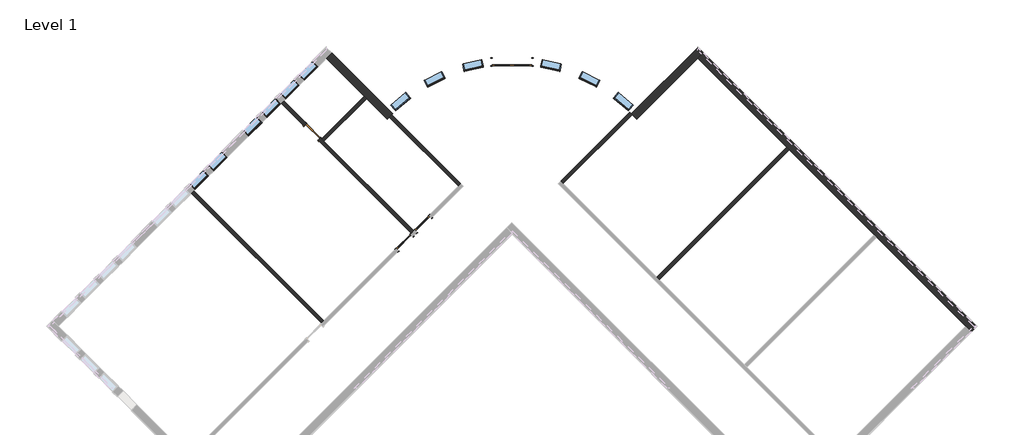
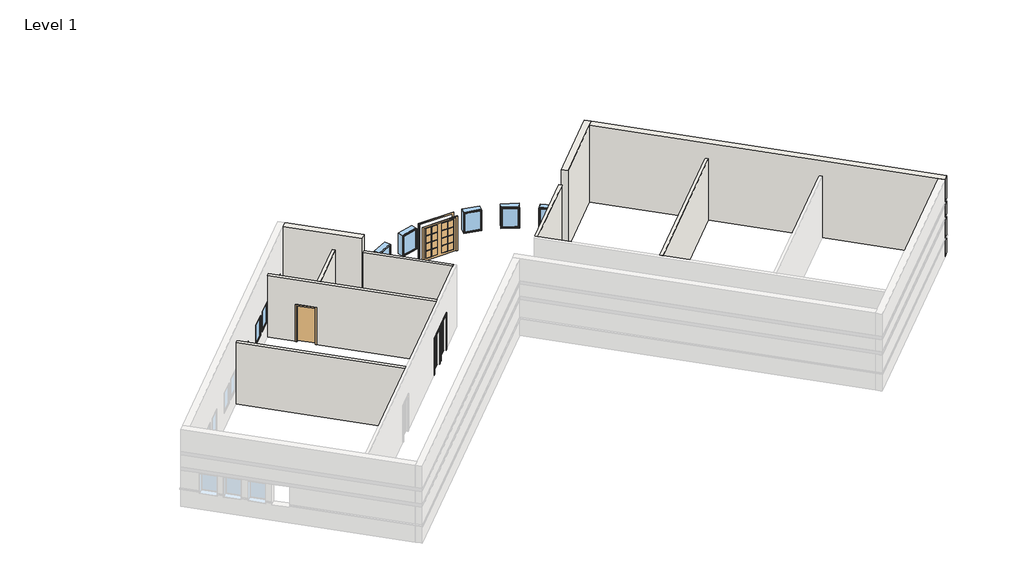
# One storey, part 2 of 3: 12 windows, 9 walls, 4 doors.
"""IFC4 building model written with IfcOpenShell, lengths in millimetres."""

from ifc_helpers import new_model, si_unit, point, frame, frame_2d, origin, origin_with_axes, place, context, project, spatial, polyline, circle_curve, trimmed, segment, composite_curve, outline, extrude, faceted_brep, transform, mapped, element, save
from ifc_brep_helpers import plane_surface, cylinder_surface, revolved_surface, advanced_brep
from components import door_74f1c961, door_f9494b7c, door_b81abb0e, door_5f5b55da, window_15c49d37, window_0e2fc6ce

model = new_model("IFC4")

# Units and contexts
model_context = context("Model", 3, world=origin())
ifc_project = project(units=[si_unit("LENGTHUNIT", "METRE", prefix="MILLI")], contexts=[model_context])

# Site, building, storey
site = spatial("IfcSite", under=ifc_project)
building = spatial("IfcBuilding", under=site)
storey = spatial("IfcBuildingStorey", under=building, Name="Level 1", Elevation=0.0)

# Doors
placement = place(None, origin())
door_shape = door_74f1c961(model_context)
element("IfcDoor", 1, ObjectType="Double-Glass 2 : 72\" x 78\"", at=placement, inside=storey, context=model_context, shape_type="MappedRepresentation", body=[
    mapped(door_shape, transform((-3443.7425556, 10275.0854226, 0.0), x_axis=(-0.9999999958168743, -9.146721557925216e-05, 0.0), y_axis=(9.146721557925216e-05, -0.9999999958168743, 0.0), z_axis=(0.0, 0.0, 1.0))),
])
door_2_shape = door_f9494b7c(model_context)
element("IfcDoor", 2, ObjectType="Single-Flush : 36\" x 84\"", at=placement, inside=storey, context=model_context, shape_type="MappedRepresentation", body=[
    mapped(door_2_shape, transform((-12710.6349126, 7029.9464017, 0.0), x_axis=(0.7071067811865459, -0.7071067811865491, 0.0), y_axis=(0.7071067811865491, 0.7071067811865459, 0.0), z_axis=(0.0, 0.0, 1.0))),
])
door_3_shape = door_b81abb0e(model_context)
element("IfcDoor", 3, ObjectType="Single-Glass 1 : 36\" x 84\"", at=placement, inside=storey, context=model_context, shape_type="MappedRepresentation", body=[
    mapped(door_3_shape, transform((-8433.7879349, 1890.9948364, 0.0), x_axis=(0.707106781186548, 0.707106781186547, 0.0), y_axis=(-0.707106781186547, 0.707106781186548, 0.0), z_axis=(0.0, 0.0, 1.0))),
])
door_4_shape = door_5f5b55da(model_context)
element("IfcDoor", 4, ObjectType="Single-Glass 1 : 36\" x 84\"", at=placement, inside=storey, context=model_context, shape_type="MappedRepresentation", body=[
    mapped(door_4_shape, transform((-7571.6833473, 2753.0994241, 0.0), x_axis=(-0.707106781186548, -0.707106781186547, 0.0), y_axis=(0.707106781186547, -0.707106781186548, 0.0), z_axis=(0.0, 0.0, 1.0))),
])

# Walls
element("IfcWall", 5, ObjectType="Exterior - Split Face and CMU on Mtl. Stud", at=placement, inside=storey, context=model_context, shape_type="AdvancedBrep", body=[
    advanced_brep(
    [(2346.973313, 7613.6268242, 0.0), (5178.0352806, 10444.6887918, 0.0), (5427.237388, 10693.8908991, 0.0), (5427.237388, 10693.8908991, 1016.0), (5362.1305311, 10628.7840422, 1016.0), (5362.1305311, 10628.7840422, 1085.85), (5427.237388, 10693.8908991, 1085.85), (5427.237388, 10693.8908991, 2133.6), (5362.1305311, 10628.7840422, 2133.6), (5362.1305311, 10628.7840422, 2336.8), (5427.237388, 10693.8908991, 2336.8), (5427.237388, 10693.8908991, 3048.0), (5362.1305311, 10628.7840422, 3048.0), (5362.1305311, 10628.7840422, 3251.2), (5427.237388, 10693.8908991, 3251.2), (5427.237388, 10693.8908991, 4572.0), (5178.0352806, 10444.6887918, 4572.0), (2346.973313, 7613.6268242, 4572.0), (2102.2428123, 7867.3005381, 4572.0), (2351.4472641, 8116.50499, 4572.0), (5178.0352806, 10943.0930065, 4572.0), (5178.0352806, 10943.0930065, 3251.2), (2351.4472641, 8116.50499, 3251.2), (2286.3398143, 8051.3975402, 3251.2), (2286.3398143, 8051.3975402, 3048.0), (2351.4472641, 8116.50499, 3048.0), (5178.0352806, 10943.0930065, 3048.0), (5178.0352806, 10943.0930065, 2336.8), (2351.4472641, 8116.50499, 2336.8), (2286.3398143, 8051.3975402, 2336.8), (2286.3398143, 8051.3975402, 2133.6), (2351.4472641, 8116.50499, 2133.6), (5178.0352806, 10943.0930065, 2133.6), (5178.0352806, 10943.0930065, 1085.85), (2351.4472641, 8116.50499, 1085.85), (2286.3398143, 8051.3975402, 1085.85), (2286.3398143, 8051.3975402, 1016.0), (2351.4472641, 8116.50499, 1016.0), (5178.0352806, 10943.0930065, 1016.0), (5178.0352806, 10943.0930065, 0.0), (2351.4472641, 8116.50499, 0.0), (2102.2428123, 7867.3005381, 0.0), (2167.2578198, 7802.1018319, 0.0), (5243.1421375, 10877.9861496, 0.0), (2351.3577606, 7986.2017727, 1016.0), (2351.3577606, 7986.2017727, 1085.85), (5178.0352806, 10812.8792927, 1085.85), (5178.0352806, 10812.8792927, 1016.0), (2351.3577606, 7986.2017727, 2133.6), (2351.3577606, 7986.2017727, 2336.8), (5178.0352806, 10812.8792927, 2336.8), (5178.0352806, 10812.8792927, 2133.6), (5178.0352806, 10812.8792927, 3048.0), (2351.3577606, 7986.2017727, 3048.0), (2351.3577606, 7986.2017727, 3251.2), (5178.0352806, 10812.8792927, 3251.2), (2132.6031084, 7837.04408, 0.0)],
    [
        (0, 1),
        (1, 2),
        (2, 3),
        (3, 4),
        (4, 5),
        (5, 6),
        (6, 7),
        (7, 8),
        (8, 9),
        (9, 10),
        (10, 11),
        (11, 12),
        (12, 13),
        (13, 14),
        (14, 15),
        (15, 16),
        (16, 17),
        (17, 0),
        (18, 19),
        (19, 20),
        (20, 21),
        (21, 22),
        (22, 23),
        (23, 24),
        (24, 25),
        (25, 26),
        (26, 27),
        (27, 28),
        (28, 29),
        (29, 30),
        (30, 31),
        (31, 32),
        (32, 33),
        (33, 34),
        (34, 35),
        (35, 36),
        (36, 37),
        (37, 38),
        (38, 39),
        (39, 40),
        (40, 41),
        (41, 18),
        (15, 20),
        (18, 17, circle_curve(frame((-3443.0105956, 2272.6557216, 4572.0), z_axis=(0.0, 0.0, -1.0), x_axis=(1.0, 0.0, 0.0)), 7877.175)),
        (0, 42, circle_curve(frame((-3443.0105956, 2272.6557216, 0.0), z_axis=(0.0, 0.0, 1.0), x_axis=(1.0, 0.0, 0.0)), 7877.175)),
        (42, 43),
        (43, 2),
        (44, 45),
        (45, 46),
        (46, 47),
        (47, 44),
        (48, 49),
        (49, 50),
        (50, 51),
        (51, 48),
        (52, 53),
        (53, 54),
        (54, 55),
        (55, 52),
        (14, 21),
        (43, 39),
        (38, 3),
        (6, 33),
        (32, 7),
        (10, 27),
        (26, 11),
        (46, 5),
        (4, 47),
        (50, 9),
        (8, 51),
        (55, 13),
        (12, 52),
        (42, 56, circle_curve(frame((-3443.0105956, 2272.6557216, 0.0), z_axis=(0.0, 0.0, 1.0), x_axis=(1.0, 0.0, 0.0)), 7877.175)),
        (56, 41, circle_curve(frame((-3443.0105956, 2272.6557216, 0.0), z_axis=(0.0, 0.0, 1.0), x_axis=(1.0, 0.0, 0.0)), 7877.175)),
        (45, 35, circle_curve(frame((-3443.0105956, 2272.6557216, 1085.85), z_axis=(0.0, 0.0, 1.0), x_axis=(-0.7040995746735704, 0.7101012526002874, 0.0)), 8137.525)),
        (36, 44, circle_curve(frame((-3443.0105956, 2272.6557216, 1016.0), z_axis=(0.0, 0.0, -1.0), x_axis=(-0.7040995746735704, 0.7101012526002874, 0.0)), 8137.525)),
        (30, 48, circle_curve(frame((-3443.0105956, 2272.6557216, 2133.6), z_axis=(0.0, 0.0, -1.0), x_axis=(-0.7040995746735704, 0.7101012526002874, 0.0)), 8137.525)),
        (29, 49, circle_curve(frame((-3443.0105956, 2272.6557216, 2336.8), z_axis=(0.0, 0.0, -1.0), x_axis=(-0.7040995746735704, 0.7101012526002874, 0.0)), 8137.525)),
        (24, 53, circle_curve(frame((-3443.0105956, 2272.6557216, 3048.0), z_axis=(0.0, 0.0, -1.0), x_axis=(-0.7040995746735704, 0.7101012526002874, 0.0)), 8137.525)),
        (23, 54, circle_curve(frame((-3443.0105956, 2272.6557216, 3251.2), z_axis=(0.0, 0.0, -1.0), x_axis=(-0.7040995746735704, 0.7101012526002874, 0.0)), 8137.525)),
    ],
    [
        plane_surface(frame((2409.8713313, 7676.5248424, 0.0), z_axis=(0.7071067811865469, -0.7071067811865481, 0.0), x_axis=(0.7071067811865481, 0.7071067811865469, 0.0))),
        plane_surface(frame((2160.6692239, 7925.7269498, 0.0), z_axis=(-0.7071067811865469, 0.7071067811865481, 0.0), x_axis=(-0.7071067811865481, -0.7071067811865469, 0.0))),
        plane_surface(frame((5302.6363343, 10569.2898454, 4572.0), z_axis=(0.0, 0.0, 1.0), x_axis=(-0.707106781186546, 0.7071067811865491, 0.0))),
        plane_surface(frame((2475.22429, 7741.8778012, 0.0), z_axis=(0.0, 0.0, -1.0), x_axis=(-0.7071067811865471, 0.7071067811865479, 0.0))),
        plane_surface(frame((2351.3577606, 7986.2017727, 1016.0), z_axis=(-0.7071067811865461, 0.7071067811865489, 0.0), x_axis=(0.7071067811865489, 0.7071067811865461, 0.0))),
        plane_surface(frame((2351.3577606, 7986.2017727, 2133.6), z_axis=(-0.7071067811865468, 0.7071067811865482, 0.0), x_axis=(0.7071067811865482, 0.7071067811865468, 0.0))),
        plane_surface(frame((2351.3577606, 7986.2017727, 3048.0), z_axis=(-0.7071067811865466, 0.7071067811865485, 0.0), x_axis=(0.7071067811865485, 0.7071067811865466, 0.0))),
        plane_surface(frame((5178.0352806, 10943.0930065, 0.0), z_axis=(0.7071067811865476, 0.7071067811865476, 0.0), x_axis=(-0.7071067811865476, 0.7071067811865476, 0.0))),
        plane_surface(frame((5178.0352806, 10812.8792927, 1016.0), z_axis=(0.7071067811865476, 0.7071067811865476, 0.0), x_axis=(0.7071067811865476, -0.7071067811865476, 0.0))),
        plane_surface(frame((5178.0352806, 10812.8792927, 2133.6), z_axis=(0.7071067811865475, 0.7071067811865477, 0.0), x_axis=(0.7071067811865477, -0.7071067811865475, 0.0))),
        plane_surface(frame((5178.0352806, 10812.8792927, 3048.0), z_axis=(0.7071067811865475, 0.7071067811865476, 0.0), x_axis=(0.7071067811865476, -0.7071067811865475, 0.0))),
        plane_surface(frame((0.0, 0.0, 0.0), z_axis=(0.0, 0.0, -1.0), x_axis=(1.0, 0.0, 0.0))),
        plane_surface(frame((-3443.0105956, 2272.6557216, 1085.85), z_axis=(0.0, 0.0, -1.0), x_axis=(-0.7040995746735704, 0.7101012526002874, 0.0))),
        plane_surface(frame((-3443.0105956, 2272.6557216, 1016.0), z_axis=(0.0, 0.0, 1.0), x_axis=(-0.7040995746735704, 0.7101012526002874, 0.0))),
        cylinder_surface(frame((-3443.0105956, 2272.6557216, 1016.0), z_axis=(0.0, 0.0, -1.0), x_axis=(-0.7040995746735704, 0.7101012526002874, 0.0)), 8137.525),
        plane_surface(frame((-3443.0105956, 2272.6557216, 2133.6), z_axis=(0.0, 0.0, 1.0), x_axis=(-0.7040995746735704, 0.7101012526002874, 0.0))),
        cylinder_surface(frame((-3443.0105956, 2272.6557216, 2133.6), z_axis=(0.0, 0.0, -1.0), x_axis=(-0.7040995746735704, 0.7101012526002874, 0.0)), 8137.525),
        plane_surface(frame((-3443.0105956, 2272.6557216, 2336.8), z_axis=(0.0, 0.0, -1.0), x_axis=(-0.7040995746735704, 0.7101012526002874, 0.0))),
        plane_surface(frame((-3443.0105956, 2272.6557216, 3048.0), z_axis=(0.0, 0.0, 1.0), x_axis=(-0.7040995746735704, 0.7101012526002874, 0.0))),
        cylinder_surface(frame((-3443.0105956, 2272.6557216, 3048.0), z_axis=(0.0, 0.0, -1.0), x_axis=(-0.7040995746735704, 0.7101012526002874, 0.0)), 8137.525),
        plane_surface(frame((-3443.0105956, 2272.6557216, 3251.2), z_axis=(0.0, 0.0, -1.0), x_axis=(-0.7040995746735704, 0.7101012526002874, 0.0))),
        revolved_surface(polyline([(4434.1644044, 2272.6557216, 0.0), (4434.1644044, 2272.6557216, 4572.0)]), (-3443.0105956, 2272.6557216, 0.0), (0.0, 0.0, -1.0)),
    ],
    [
        (0, [[1, 2, 3, 4, 5, 6, 7, 8, 9, 10, 11, 12, 13, 14, 15, 16, 17, 18]]),
        (1, [[19, 20, 21, 22, 23, 24, 25, 26, 27, 28, 29, 30, 31, 32, 33, 34, 35, 36, 37, 38, 39, 40, 41, 42]]),
        (2, [[-17, -16, 43, -20, -19, 44]]),
        (3, [[-2, -1, 45, 46, 47]]),
        (4, [[48, 49, 50, 51]]),
        (5, [[52, 53, 54, 55]]),
        (6, [[56, 57, 58, 59]]),
        (7, [[-43, -15, 60, -21]]),
        (7, [[-47, 61, -39, 62, -3]]),
        (7, [[-7, 63, -33, 64]]),
        (7, [[65, -27, 66, -11]]),
        (8, [[-50, 67, -5, 68]]),
        (9, [[-54, 69, -9, 70]]),
        (10, [[-59, 71, -13, 72]]),
        (11, [[-41, -40, -61, -46, 73, 74]]),
        (12, [[-49, 75, -35, -34, -63, -6, -67]]),
        (13, [[-51, -68, -4, -62, -38, -37, 76]]),
        (14, [[-48, -76, -36, -75]]),
        (15, [[-55, -70, -8, -64, -32, -31, 77]]),
        (16, [[-52, -77, -30, 78]]),
        (17, [[-53, -78, -29, -28, -65, -10, -69]]),
        (18, [[-56, -72, -12, -66, -26, -25, 79]]),
        (19, [[-57, -79, -24, 80]]),
        (20, [[-58, -80, -23, -22, -60, -14, -71]]),
        (21, [[-44, -42, -74, -73, -45, -18]]),
    ],
),
])
element("IfcWall", 6, ObjectType="Exterior - Split Face and CMU on Mtl. Stud", at=placement, inside=storey, context=model_context, shape_type="Brep", body=[
    faceted_brep([(5178.0352806, 10444.6887918, 0.0), (9308.9530963, 6313.7709761, 0.0), (9418.9612338, 6203.7628386, 0.0), (13370.2739271, 2252.4501453, 0.0), (13480.2820645, 2142.4420078, 0.0), (17611.1998802, -1988.4758079, 0.0), (17860.4019876, -2237.6779152, 0.0), (17860.4019876, -2237.6779152, 1016.0), (17795.2951307, -2172.5710583, 1016.0), (17795.2951307, -2172.5710583, 1085.85), (17860.4019876, -2237.6779152, 1085.85), (17860.4019876, -2237.6779152, 2133.6), (17795.2951307, -2172.5710583, 2133.6), (17795.2951307, -2172.5710583, 2336.8), (17860.4019876, -2237.6779152, 2336.8), (17860.4019876, -2237.6779152, 3048.0), (17795.2951307, -2172.5710583, 3048.0), (17795.2951307, -2172.5710583, 3251.2), (17860.4019876, -2237.6779152, 3251.2), (17860.4019876, -2237.6779152, 4572.0), (17611.1998802, -1988.4758079, 4572.0), (5178.0352806, 10444.6887918, 4572.0), (5427.237388, 10693.8908991, 4572.0), (18109.604095, -1988.4758079, 4572.0), (18109.604095, -1988.4758079, 3251.2), (5427.237388, 10693.8908991, 3251.2), (18109.604095, -1988.4758079, 0.0), (5427.237388, 10693.8908991, 0.0), (5427.237388, 10693.8908991, 1016.0), (18109.604095, -1988.4758079, 1016.0), (18109.604095, -1988.4758079, 1085.85), (5427.237388, 10693.8908991, 1085.85), (5427.237388, 10693.8908991, 2133.6), (18109.604095, -1988.4758079, 2133.6), (18109.604095, -1988.4758079, 2336.8), (5427.237388, 10693.8908991, 2336.8), (5427.237388, 10693.8908991, 3048.0), (18109.604095, -1988.4758079, 3048.0), (5362.1305311, 10628.7840422, 0.0), (18044.4972381, -2053.5826647, 0.0), (17979.3903812, -1988.4758079, 1016.0), (5362.1305311, 10628.7840422, 1016.0), (5362.1305311, 10628.7840422, 1085.85), (17979.3903812, -1988.4758079, 1085.85), (17979.3903812, -1988.4758079, 2133.6), (5362.1305311, 10628.7840422, 2133.6), (5362.1305311, 10628.7840422, 2336.8), (17979.3903812, -1988.4758079, 2336.8), (17979.3903812, -1988.4758079, 3251.2), (17979.3903812, -1988.4758079, 3048.0), (5362.1305311, 10628.7840422, 3048.0), (5362.1305311, 10628.7840422, 3251.2)], [[[0, 1, 2, 3, 4, 5, 6, 7, 8, 9, 10, 11, 12, 13, 14, 15, 16, 17, 18, 19, 20, 21]], [[22, 23, 24, 25]], [[26, 27, 28, 29]], [[30, 31, 32, 33]], [[34, 35, 36, 37]], [[21, 20, 19, 23, 22]], [[6, 5, 4, 3, 2, 1, 0, 38, 39]], [[40, 41, 42, 43]], [[44, 45, 46, 47]], [[48, 49, 50, 51]], [[0, 21, 22, 25, 51, 50, 36, 35, 46, 45, 32, 31, 42, 41, 28, 27, 38]], [[27, 26, 39, 38]], [[43, 42, 31, 30, 10, 9]], [[41, 40, 8, 7, 29, 28]], [[45, 44, 12, 11, 33, 32]], [[47, 46, 35, 34, 14, 13]], [[50, 49, 16, 15, 37, 36]], [[17, 48, 51, 25, 24, 18]], [[23, 19, 18, 24]], [[6, 39, 26, 29, 7]], [[10, 30, 33, 11]], [[14, 34, 37, 15]], [[40, 43, 9, 8]], [[44, 47, 13, 12]], [[49, 48, 17, 16]]]),
])
element("IfcWall", 7, ObjectType="Exterior - Split Face and CMU on Mtl. Stud", at=placement, inside=storey, context=model_context, shape_type="AdvancedBrep", body=[
    advanced_brep(
    [(-12064.0564718, 10444.6887918, 0.0), (-10303.9262721, 8684.558592, 0.0), (-10193.9181346, 8574.5504545, 0.0), (-9232.9945042, 7613.6268242, 0.0), (-9232.9945042, 7613.6268242, 4572.0), (-12064.0564718, 10444.6887918, 4572.0), (-11814.8543645, 10693.8908991, 4572.0), (-9237.4684553, 8116.50499, 4572.0), (-8988.2640035, 7867.3005381, 4572.0), (-8988.2640035, 7867.3005381, 0.0), (-9237.4684553, 8116.50499, 0.0), (-11814.8543645, 10693.8908991, 0.0), (-11814.8543645, 10693.8908991, 1016.0), (-9237.4684553, 8116.50499, 1016.0), (-9172.3610055, 8051.3975402, 1016.0), (-9172.3610055, 8051.3975402, 1085.85), (-9237.4684553, 8116.50499, 1085.85), (-11814.8543645, 10693.8908991, 1085.85), (-11814.8543645, 10693.8908991, 2133.6), (-9237.4684553, 8116.50499, 2133.6), (-9172.3610055, 8051.3975402, 2133.6), (-9172.3610055, 8051.3975402, 2336.8), (-9237.4684553, 8116.50499, 2336.8), (-11814.8543645, 10693.8908991, 2336.8), (-11814.8543645, 10693.8908991, 3048.0), (-9237.4684553, 8116.50499, 3048.0), (-9172.3610055, 8051.3975402, 3048.0), (-9172.3610055, 8051.3975402, 3251.2), (-9237.4684553, 8116.50499, 3251.2), (-11814.8543645, 10693.8908991, 3251.2), (-11879.9612214, 10628.7840422, 0.0), (-9053.2790111, 7802.1018319, 0.0), (-9132.9267624, 7720.1083444, 0.0), (-9237.3789518, 7986.2017727, 1016.0), (-11879.9612214, 10628.7840422, 1016.0), (-11879.9612214, 10628.7840422, 1085.85), (-9237.3789518, 7986.2017727, 1085.85), (-9237.3789518, 7986.2017727, 2133.6), (-11879.9612214, 10628.7840422, 2133.6), (-11879.9612214, 10628.7840422, 2336.8), (-9237.3789518, 7986.2017727, 2336.8), (-9237.3789518, 7986.2017727, 3251.2), (-9237.3789518, 7986.2017727, 3048.0), (-11879.9612214, 10628.7840422, 3048.0), (-11879.9612214, 10628.7840422, 3251.2), (-9024.2284446, 7831.4229682, 0.0)],
    [
        (0, 1),
        (1, 2),
        (2, 3),
        (3, 4),
        (4, 5),
        (5, 0),
        (6, 7),
        (7, 8),
        (8, 9),
        (9, 10),
        (10, 11),
        (11, 12),
        (12, 13),
        (13, 14),
        (14, 15),
        (15, 16),
        (16, 17),
        (17, 18),
        (18, 19),
        (19, 20),
        (20, 21),
        (21, 22),
        (22, 23),
        (23, 24),
        (24, 25),
        (25, 26),
        (26, 27),
        (27, 28),
        (28, 29),
        (29, 6),
        (4, 8, circle_curve(frame((-3443.0105956, 2272.6557216, 4572.0), z_axis=(0.0, 0.0, -1.0), x_axis=(1.0, 0.0, 0.0)), 7877.175)),
        (6, 5),
        (0, 30),
        (30, 31),
        (31, 32, circle_curve(frame((-3443.0105956, 2272.6557216, 0.0), z_axis=(0.0, 0.0, 1.0), x_axis=(1.0, 0.0, 0.0)), 7877.175)),
        (32, 3, circle_curve(frame((-3443.0105956, 2272.6557216, 0.0), z_axis=(0.0, 0.0, 1.0), x_axis=(1.0, 0.0, 0.0)), 7877.1750052)),
        (33, 34),
        (34, 35),
        (35, 36),
        (36, 33),
        (37, 38),
        (38, 39),
        (39, 40),
        (40, 37),
        (41, 42),
        (42, 43),
        (43, 44),
        (44, 41),
        (29, 44),
        (43, 24),
        (23, 39),
        (38, 18),
        (17, 35),
        (34, 12),
        (11, 30),
        (9, 45, circle_curve(frame((-3443.0105956, 2272.6557216, 0.0), z_axis=(0.0, 0.0, 1.0), x_axis=(1.0, 0.0, 0.0)), 7877.175)),
        (45, 31, circle_curve(frame((-3443.0105956, 2272.6557216, 0.0), z_axis=(0.0, 0.0, 1.0), x_axis=(1.0, 0.0, 0.0)), 7877.175)),
        (15, 36, circle_curve(frame((-3443.0105956, 2272.6557216, 1085.85), z_axis=(0.0, 0.0, 1.0), x_axis=(-0.7040995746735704, 0.7101012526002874, 0.0)), 8137.525)),
        (33, 14, circle_curve(frame((-3443.0105956, 2272.6557216, 1016.0), z_axis=(0.0, 0.0, -1.0), x_axis=(-0.7040995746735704, 0.7101012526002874, 0.0)), 8137.525)),
        (37, 20, circle_curve(frame((-3443.0105956, 2272.6557216, 2133.6), z_axis=(0.0, 0.0, -1.0), x_axis=(-0.712055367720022, 0.7021233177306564, 0.0)), 8137.525)),
        (40, 21, circle_curve(frame((-3443.0105956, 2272.6557216, 2336.8), z_axis=(0.0, 0.0, -1.0), x_axis=(-0.712055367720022, 0.7021233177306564, 0.0)), 8137.525)),
        (42, 26, circle_curve(frame((-3443.0105956, 2272.6557216, 3048.0), z_axis=(0.0, 0.0, -1.0), x_axis=(-0.712055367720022, 0.7021233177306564, 0.0)), 8137.525)),
        (41, 27, circle_curve(frame((-3443.0105956, 2272.6557216, 3251.2), z_axis=(0.0, 0.0, -1.0), x_axis=(-0.712055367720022, 0.7021233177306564, 0.0)), 8137.525)),
    ],
    [
        plane_surface(frame((-12313.2585792, 10693.8908991, 0.0), z_axis=(-0.707106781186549, -0.7071067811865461, 0.0), x_axis=(0.7071067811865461, -0.707106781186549, 0.0))),
        plane_surface(frame((-12064.0564718, 10943.0930065, 0.0), z_axis=(0.707106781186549, 0.7071067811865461, 0.0), x_axis=(-0.7071067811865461, 0.707106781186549, 0.0))),
        plane_surface(frame((-9361.2454813, 7741.8778012, 4572.0), z_axis=(0.0, 0.0, 1.0), x_axis=(0.7071067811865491, 0.707106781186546, 0.0))),
        plane_surface(frame((-12188.6575255, 10569.2898454, 0.0), z_axis=(0.0, 0.0, -1.0), x_axis=(0.7071067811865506, 0.7071067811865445, 0.0))),
        plane_surface(frame((-12064.0564718, 10812.8792927, 1016.0), z_axis=(0.707106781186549, 0.707106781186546, 0.0), x_axis=(0.707106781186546, -0.707106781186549, 0.0))),
        plane_surface(frame((-12064.0564718, 10812.8792927, 2133.6), z_axis=(0.7071067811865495, 0.7071067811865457, 0.0), x_axis=(0.7071067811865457, -0.7071067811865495, 0.0))),
        plane_surface(frame((-12064.0564718, 10812.8792927, 3048.0), z_axis=(0.7071067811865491, 0.7071067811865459, 0.0), x_axis=(0.7071067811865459, -0.7071067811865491, 0.0))),
        plane_surface(frame((-24746.4231788, -2237.6779152, 0.0), z_axis=(-0.7071067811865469, 0.7071067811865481, 0.0), x_axis=(0.7071067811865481, 0.7071067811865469, 0.0))),
        plane_surface(frame((0.0, 0.0, 0.0), z_axis=(0.0, 0.0, -1.0), x_axis=(1.0, 0.0, 0.0))),
        plane_surface(frame((-3443.0105956, 2272.6557216, 1085.85), z_axis=(0.0, 0.0, -1.0), x_axis=(-0.7040995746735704, 0.7101012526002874, 0.0))),
        plane_surface(frame((-3443.0105956, 2272.6557216, 1016.0), z_axis=(0.0, 0.0, 1.0), x_axis=(-0.7040995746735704, 0.7101012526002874, 0.0))),
        cylinder_surface(frame((-3443.0105956, 2272.6557216, 1016.0), z_axis=(0.0, 0.0, -1.0), x_axis=(-0.7040995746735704, 0.7101012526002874, 0.0)), 8137.525),
        plane_surface(frame((-3443.0105956, 2272.6557216, 2133.6), z_axis=(0.0, 0.0, 1.0), x_axis=(-0.712055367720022, 0.7021233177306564, 0.0))),
        cylinder_surface(frame((-3443.0105956, 2272.6557216, 2133.6), z_axis=(0.0, 0.0, -1.0), x_axis=(-0.712055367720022, 0.7021233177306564, 0.0)), 8137.525),
        plane_surface(frame((-3443.0105956, 2272.6557216, 2336.8), z_axis=(0.0, 0.0, -1.0), x_axis=(-0.712055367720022, 0.7021233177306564, 0.0))),
        plane_surface(frame((-3443.0105956, 2272.6557216, 3048.0), z_axis=(0.0, 0.0, 1.0), x_axis=(-0.712055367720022, 0.7021233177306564, 0.0))),
        cylinder_surface(frame((-3443.0105956, 2272.6557216, 3048.0), z_axis=(0.0, 0.0, -1.0), x_axis=(-0.712055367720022, 0.7021233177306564, 0.0)), 8137.525),
        plane_surface(frame((-3443.0105956, 2272.6557216, 3251.2), z_axis=(0.0, 0.0, -1.0), x_axis=(-0.712055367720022, 0.7021233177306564, 0.0))),
        revolved_surface(polyline([(4434.1644044, 2272.6557216, 0.0), (4434.1644044, 2272.6557216, 4572.0)]), (-3443.0105956, 2272.6557216, 0.0), (0.0, 0.0, -1.0)),
    ],
    [
        (0, [[1, 2, 3, 4, 5, 6]]),
        (1, [[7, 8, 9, 10, 11, 12, 13, 14, 15, 16, 17, 18, 19, 20, 21, 22, 23, 24, 25, 26, 27, 28, 29, 30]]),
        (2, [[-5, 31, -8, -7, 32]]),
        (3, [[-3, -2, -1, 33, 34, 35, 36]]),
        (4, [[37, 38, 39, 40]]),
        (5, [[41, 42, 43, 44]]),
        (6, [[45, 46, 47, 48]]),
        (7, [[-6, -32, -30, 49, -47, 50, -24, 51, -42, 52, -18, 53, -38, 54, -12, 55, -33]]),
        (8, [[-11, -10, 56, 57, -34, -55]]),
        (9, [[-39, -53, -17, -16, 58]]),
        (10, [[-37, 59, -14, -13, -54]]),
        (11, [[-40, -58, -15, -59]]),
        (12, [[-41, 60, -20, -19, -52]]),
        (13, [[-44, 61, -21, -60]]),
        (14, [[-43, -51, -23, -22, -61]]),
        (15, [[-46, 62, -26, -25, -50]]),
        (16, [[-45, 63, -27, -62]]),
        (17, [[-63, -48, -49, -29, -28]]),
        (18, [[-31, -4, -36, -35, -57, -56, -9]]),
    ],
),
])
element("IfcWall", 8, ObjectType="Interior - 6 1/8\" Partition (2-hr)", at=placement, inside=storey, context=model_context, shape_type="SweptSolid", body=[
    extrude(outline(composite_curve([segment(polyline([(-9024.2284636, 7831.4229492), (-5813.7982116, 4620.9926972), (-5923.8063491, 4510.9845598), (-9132.9284077, 7720.1066184)]), True, "CONTINUOUS"), segment(trimmed(circle_curve(frame_2d((-3443.0105956, 2272.6557216)), 7877.175), [point((-9132.9284077, 7720.1066184))], [point((-9024.2284636, 7831.4229492))], False, "CARTESIAN"), True, "CONTINUOUS")], self_intersect=False)), origin_with_axes(), (0.0, 0.0, 1.0), 3657.6),
])
element("IfcWall", 9, ObjectType="Interior - 6 1/8\" Partition (2-hr)", at=placement, inside=storey, context=model_context, shape_type="Brep", body=[
    faceted_brep([(-8002.7356411, 2432.0552677, 0.0), (-12169.5744813, 6598.8941079, 0.0), (-12279.5826187, 6708.9022454, 0.0), (-12332.3416235, 6761.6612501, 0.0), (-12332.3416235, 6761.6612501, 2133.6), (-12978.9200642, 7408.2396908, 2133.6), (-12978.9200642, 7408.2396908, 0.0), (-14039.7128185, 8469.0324451, 0.0), (-14039.7128185, 8469.0324451, 3657.6), (-12279.5826187, 6708.9022454, 3657.6), (-12169.5744813, 6598.8941079, 3657.6), (-8002.7356411, 2432.0552677, 3657.6), (-12442.3497609, 6651.6531126, 2133.6), (-12442.3497609, 6651.6531126, 0.0), (-8112.7437786, 2322.0471303, 0.0), (-8112.7437786, 2322.0471303, 3657.6), (-14149.720956, 8359.0243076, 3657.6), (-14149.720956, 8359.0243076, 0.0), (-13088.9282017, 7298.2315533, 0.0), (-13088.9282017, 7298.2315533, 2133.6)], [[[0, 1, 2, 3, 4, 5, 6, 7, 8, 9, 10, 11]], [[12, 13, 14, 15, 16, 17, 18, 19]], [[18, 17, 7, 6]], [[14, 13, 3, 2, 1, 0]], [[11, 10, 9, 8, 16, 15]], [[8, 7, 17, 16]], [[0, 11, 15, 14]], [[4, 3, 13, 12]], [[5, 4, 12, 19]], [[6, 5, 19, 18]]]),
])
element("IfcWall", 10, ObjectType="Interior - 6 1/8\" Partition (2-hr)", at=placement, inside=storey, context=model_context, shape_type="SweptSolid", body=[
    extrude(outline(polyline([(-10193.9181346, 8574.5504545), (-12169.5744813, 6598.8941079), (-12279.5826187, 6708.9022454), (-10303.9262721, 8684.558592), (-10193.9181346, 8574.5504545)])), origin_with_axes(), (0.0, 0.0, 1.0), 3657.6),
])
element("IfcWall", 11, ObjectType="Interior - 6 1/8\" Partition (2-hr)", at=placement, inside=storey, context=model_context, shape_type="SweptSolid", body=[
    extrude(outline(polyline([(-18208.7967227, 4299.9485409), (-12171.8195453, -1737.0286365), (-12281.8276828, -1847.036774), (-18318.8048602, 4189.9404034), (-18208.7967227, 4299.9485409)])), origin_with_axes(), (0.0, 0.0, 1.0), 3657.6),
])
element("IfcWall", 12, ObjectType="Interior - 6 1/8\" Partition (2-hr)", at=placement, inside=storey, context=model_context, shape_type="AdvancedBrep", body=[
    advanced_brep(
    [(-1077.8356397, 4626.6053573, 0.0), (2132.6030957, 7837.0440928, 0.0), (2132.6030957, 7837.0440928, 3657.6), (-1077.8356397, 4626.6053573, 3657.6), (-1187.8437772, 4736.6134948, 0.0), (-1187.8437772, 4736.6134948, 3657.6), (2021.619387, 7946.076659, 3657.6), (2021.619387, 7946.076659, 0.0), (2102.2424893, 7867.3008561, 0.0)],
    [
        (0, 1),
        (1, 2),
        (2, 3),
        (3, 0),
        (4, 5),
        (5, 6),
        (6, 7),
        (7, 4),
        (0, 4),
        (7, 8, circle_curve(frame((-3443.0105956, 2272.6557216, 0.0), z_axis=(0.0, 0.0, -1.0), x_axis=(1.0, 0.0, 0.0)), 7877.175)),
        (8, 1, circle_curve(frame((-3443.0105956, 2272.6557216, 0.0), z_axis=(0.0, 0.0, -1.0), x_axis=(1.0, 0.0, 0.0)), 7877.1749985)),
        (2, 6, circle_curve(frame((-3443.0105956, 2272.6557216, 3657.6), z_axis=(0.0, 0.0, 1.0), x_axis=(1.0, 0.0, 0.0)), 7877.175)),
        (5, 3),
    ],
    [
        plane_surface(frame((-1132.8397085, 4571.6012886, 0.0), z_axis=(0.707106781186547, -0.7071067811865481, 0.0), x_axis=(0.7071067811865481, 0.707106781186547, 0.0))),
        plane_surface(frame((-1242.8478459, 4681.6094261, 0.0), z_axis=(-0.707106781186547, 0.7071067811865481, 0.0), x_axis=(-0.7071067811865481, -0.707106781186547, 0.0))),
        plane_surface(frame((-1132.8397085, 4571.6012886, 0.0), z_axis=(0.0, 0.0, -1.0000000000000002), x_axis=(-0.7071067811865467, 0.7071067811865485, 0.0))),
        plane_surface(frame((2256.9927783, 7961.4337753, 3657.6), z_axis=(0.0, 0.0, 1.0000000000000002), x_axis=(-0.7071067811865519, 0.7071067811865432, 0.0))),
        plane_surface(frame((11698.8237565, -8150.0540389, 0.0), z_axis=(-0.7071067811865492, -0.7071067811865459, 0.0), x_axis=(-0.7071067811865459, 0.7071067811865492, 0.0))),
        cylinder_surface(frame((-3443.0105956, 2272.6557216, 0.0), z_axis=(0.0, 0.0, -1.0), x_axis=(1.0, 0.0, 0.0)), 7877.175),
    ],
    [
        (0, [[1, 2, 3, 4]]),
        (1, [[5, 6, 7, 8]]),
        (2, [[-1, 9, -8, 10, 11]]),
        (3, [[-3, 12, -6, 13]]),
        (4, [[-4, -13, -5, -9]]),
        (5, [[-2, -11, -10, -7, -12]]),
    ],
),
])
element("IfcWall", 13, ObjectType="Interior - 6 1/8\" Partition (2-hr)", at=placement, inside=storey, context=model_context, shape_type="SweptSolid", body=[
    extrude(outline(polyline([(3271.9759189, 276.7937987), (9308.9530963, 6313.7709761), (9418.9612338, 6203.7628386), (3381.9840564, 166.7856612), (3271.9759189, 276.7937987)])), origin_with_axes(), (0.0, 0.0, 1.0), 3657.6),
])

# Windows
window_shape = window_15c49d37(model_context)
element("IfcWindow", 14, ObjectType="Fixed : 36\" x 48\"", at=placement, inside=storey, context=model_context, shape_type="MappedRepresentation", body=[
    mapped(window_shape, transform((-8641.2060106, 8407.2065347, 0.0), x_axis=(-0.7659856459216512, -0.6428576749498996, 0.0), y_axis=(0.6428576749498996, -0.7659856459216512, 0.0), z_axis=(0.0, 0.0, 1.0))),
])
element("IfcWindow", 15, ObjectType="Fixed : 36\" x 48\"", at=placement, inside=storey, context=model_context, shape_type="MappedRepresentation", body=[
    mapped(window_shape, transform((-5289.6088351, 10098.5118533, 0.0), x_axis=(-0.9743494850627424, -0.2250401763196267, 0.0), y_axis=(0.2250401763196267, -0.9743494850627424, 0.0), z_axis=(0.0, 0.0, 1.0))),
])
element("IfcWindow", 16, ObjectType="Fixed : 36\" x 48\"", at=placement, inside=storey, context=model_context, shape_type="MappedRepresentation", body=[
    mapped(window_shape, transform((-7065.4970108, 9451.2030275, 0.0), x_axis=(-0.8948935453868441, -0.4462796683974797, 0.0), y_axis=(0.4462796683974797, -0.8948935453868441, 0.0), z_axis=(0.0, 0.0, 1.0))),
])
element("IfcWindow", 17, ObjectType="Fixed : 36\" x 48\"", at=placement, inside=storey, context=model_context, shape_type="MappedRepresentation", body=[
    mapped(window_shape, transform((-17984.2903196, 4773.6570513, 0.0), x_axis=(-0.7071067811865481, -0.7071067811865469, 0.0), y_axis=(0.7071067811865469, -0.7071067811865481, 0.0), z_axis=(0.0, 0.0, 1.0))),
])
element("IfcWindow", 18, ObjectType="Fixed : 36\" x 48\"", at=placement, inside=storey, context=model_context, shape_type="MappedRepresentation", body=[
    mapped(window_shape, transform((-17122.185732, 5635.7616389, 0.0), x_axis=(-0.7071067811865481, -0.7071067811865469, 0.0), y_axis=(0.7071067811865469, -0.7071067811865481, 0.0), z_axis=(0.0, 0.0, 1.0))),
])
window_2_shape = window_0e2fc6ce(model_context)
element("IfcWindow", 19, ObjectType="Fixed : 36\" x 48\"", at=placement, inside=storey, context=model_context, shape_type="MappedRepresentation", body=[
    mapped(window_2_shape, transform((-12865.5443306, 9892.4030403, 0.0), x_axis=(0.7071067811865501, 0.707106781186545, 0.0), y_axis=(-0.707106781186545, 0.7071067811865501, 0.0), z_axis=(0.0, 0.0, 1.0))),
])
element("IfcWindow", 20, ObjectType="Fixed : 36\" x 48\"", at=placement, inside=storey, context=model_context, shape_type="MappedRepresentation", body=[
    mapped(window_2_shape, transform((-13727.6489183, 9030.2984527, 0.0), x_axis=(0.7071067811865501, 0.707106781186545, 0.0), y_axis=(-0.707106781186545, 0.7071067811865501, 0.0), z_axis=(0.0, 0.0, 1.0))),
])
element("IfcWindow", 21, ObjectType="Fixed : 36\" x 48\"", at=placement, inside=storey, context=model_context, shape_type="MappedRepresentation", body=[
    mapped(window_2_shape, transform((-14589.7535059, 8168.1938651, 0.0), x_axis=(0.7071067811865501, 0.707106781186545, 0.0), y_axis=(-0.707106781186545, 0.7071067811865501, 0.0), z_axis=(0.0, 0.0, 1.0))),
])
element("IfcWindow", 22, ObjectType="Fixed : 36\" x 48\"", at=placement, inside=storey, context=model_context, shape_type="MappedRepresentation", body=[
    mapped(window_2_shape, transform((-15451.8580935, 7306.0892774, 0.0), x_axis=(0.7071067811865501, 0.707106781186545, 0.0), y_axis=(-0.707106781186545, 0.7071067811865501, 0.0), z_axis=(0.0, 0.0, 1.0))),
])
element("IfcWindow", 23, ObjectType="Fixed : 36\" x 48\"", at=placement, inside=storey, context=model_context, shape_type="MappedRepresentation", body=[
    mapped(window_2_shape, transform((1754.3075292, 8407.9498108, 0.0), x_axis=(0.766077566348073, -0.6427481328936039, 0.0), y_axis=(0.6427481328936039, 0.766077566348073, 0.0), z_axis=(0.0, 0.0, 1.0))),
])
element("IfcWindow", 24, ObjectType="Fixed : 36\" x 48\"", at=placement, inside=storey, context=model_context, shape_type="MappedRepresentation", body=[
    mapped(window_2_shape, transform((-1597.8357846, 10098.8475904, 0.0), x_axis=(0.9743904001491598, -0.22486295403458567, 0.0), y_axis=(0.22486295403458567, 0.9743904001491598, 0.0), z_axis=(0.0, 0.0, 1.0))),
])
element("IfcWindow", 25, ObjectType="Fixed : 36\" x 48\"", at=placement, inside=storey, context=model_context, shape_type="MappedRepresentation", body=[
    mapped(window_2_shape, transform((178.2765306, 9451.808095, 0.0), x_axis=(0.8949680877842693, -0.44613016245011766, 0.0), y_axis=(0.44613016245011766, 0.8949680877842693, 0.0), z_axis=(0.0, 0.0, 1.0))),
])

save(model, "model.ifc")
